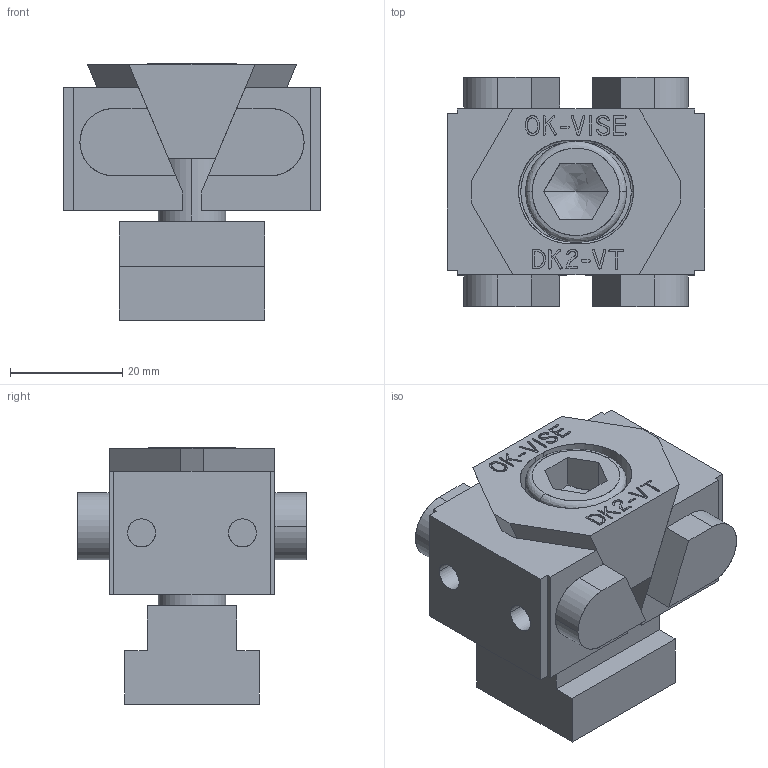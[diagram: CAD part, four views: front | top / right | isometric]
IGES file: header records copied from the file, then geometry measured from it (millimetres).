
Start section: SolidWorks IGES file using analytic representation for surfaces
Global section: file name: X:\11_SW2020-Inv2020\00_全2021-11新製品まで\m\MR-C-DT\mr-c-dt.IGS; native system: SolidWorks 2020; preprocessor: SolidWorks 2020; author: ImaoCorp; date: 211026.114607; units: millimetre
Bounding box: 46 x 41 x 45.72 mm (x, y, z)
Surface area: 17046.8 mm2 (no closed solid volume)
Topology: 0 solids, 0 shells, 315 faces, 2427 edges, 2425 vertices
Faces by surface type: bspline 283, revolution 32
